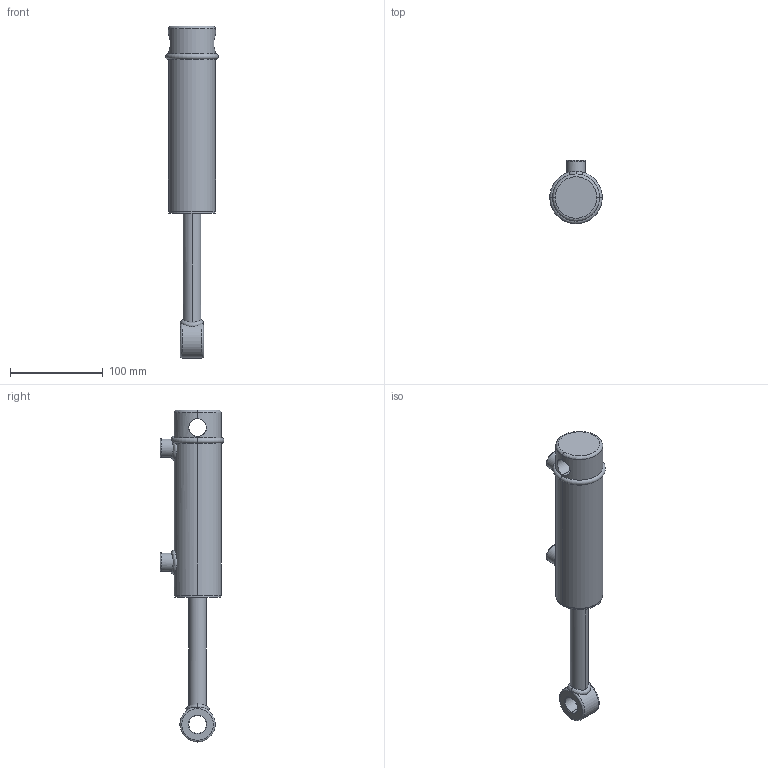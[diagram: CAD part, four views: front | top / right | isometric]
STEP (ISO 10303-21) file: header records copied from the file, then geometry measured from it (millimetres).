
FILE_DESCRIPTION (( 'STEP AP203' ), '1' );
FILE_NAME ('SB-C150075X102 (4) extended.STEP', '2014-12-18T17:24:52', ( '' ), ( '' ), 'SwSTEP 2.0', 'SolidWorks 2015', '' );
FILE_SCHEMA (( 'CONFIG_CONTROL_DESIGN' ));
Length unit declared in the file: millimetre
Products named in the file (3): SPARE_4; SB-C150075X102 (4) extended; BODY_4
Assembly tree (2 placements, depth 2):
  SB-C150075X102 (4) extended
    BODY_4
    SPARE_4
Bounding box: 56.7 x 68.75 x 358 mm (x, y, z)
Volume: 435616.2 mm3; surface area: 65190.2 mm2
Topology: 2 solids, 2 shells, 90 faces, 211 edges, 127 vertices
Faces by surface type: cylinder 32, torus 20, bspline 17, plane 13, cone 8
Entity records: 8172 total; most frequent: CARTESIAN_POINT 5968, ORIENTED_EDGE 414, DIRECTION 380, EDGE_CURVE 207, AXIS2_PLACEMENT_3D 169, VERTEX_POINT 127, EDGE_LOOP 104, CIRCLE 91
